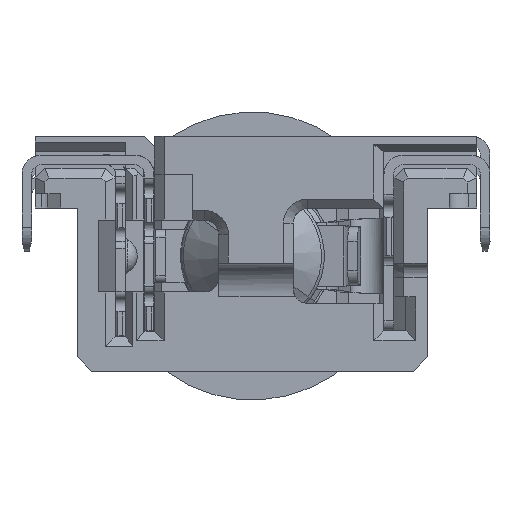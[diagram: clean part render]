
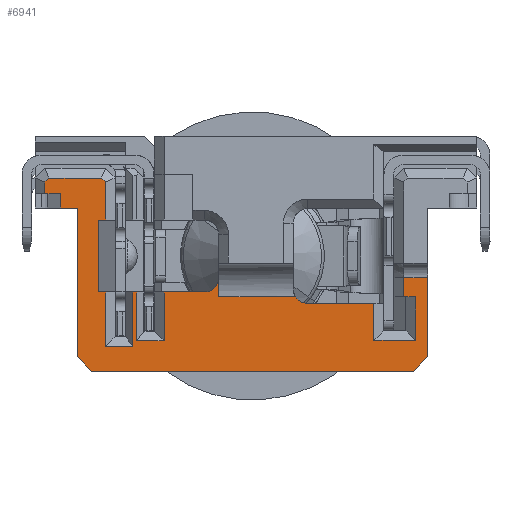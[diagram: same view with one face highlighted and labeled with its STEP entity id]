
A CAD part, front view. The second image highlights one B-rep face of the part: STEP entity #6941.
In plain terms, the highlighted planar face has unit normal (0, -1, 0).
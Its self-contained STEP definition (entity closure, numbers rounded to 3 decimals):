
#648=DIRECTION('',(0.,0.,1.));
#649=VECTOR('',#648,0.4);
#650=CARTESIAN_POINT('',(3.075,1.47,-3.14));
#651=LINE('',#650,#649);
#668=DIRECTION('',(0.707,0.,0.707));
#669=VECTOR('',#668,0.424);
#670=CARTESIAN_POINT('',(3.275,1.47,-4.69));
#671=LINE('',#670,#669);
#672=DIRECTION('',(0.707,0.,-0.707));
#673=VECTOR('',#672,0.424);
#674=CARTESIAN_POINT('',(-3.725,1.47,-4.39));
#675=LINE('',#674,#673);
#676=DIRECTION('',(0.,0.,-1.));
#677=VECTOR('',#676,3.1);
#678=CARTESIAN_POINT('',(-3.725,1.47,-1.29));
#679=LINE('',#678,#677);
#680=DIRECTION('',(1.,0.,0.));
#681=VECTOR('',#680,0.33);
#682=CARTESIAN_POINT('',(-4.4,1.47,-0.99));
#683=LINE('',#682,#681);
#684=DIRECTION('',(-0.707,0.,-0.707));
#685=VECTOR('',#684,0.117);
#686=CARTESIAN_POINT('',(-4.317,1.47,-0.665));
#687=LINE('',#686,#685);
#688=DIRECTION('',(-0.707,0.,0.707));
#689=VECTOR('',#688,0.117);
#690=CARTESIAN_POINT('',(-3.135,1.47,-0.748));
#691=LINE('',#690,#689);
#692=DIRECTION('',(1.,0.,0.));
#693=VECTOR('',#692,0.14);
#694=CARTESIAN_POINT('',(-3.275,1.47,-1.54));
#695=LINE('',#694,#693);
#696=CARTESIAN_POINT('',(-1.075,1.47,-2.74));
#697=DIRECTION('',(0.,1.,0.));
#698=DIRECTION('',(1.,0.,0.));
#699=AXIS2_PLACEMENT_3D('',#696,#697,#698);
#701=DIRECTION('',(0.,0.,1.));
#702=VECTOR('',#701,0.4);
#703=CARTESIAN_POINT('',(-0.775,1.47,-3.14));
#704=LINE('',#703,#702);
#705=CARTESIAN_POINT('',(1.075,1.47,-2.976));
#706=DIRECTION('',(0.,1.,0.));
#707=DIRECTION('',(0.,0.,-1.));
#708=AXIS2_PLACEMENT_3D('',#705,#706,#707);
#710=DIRECTION('',(1.,0.,0.));
#711=VECTOR('',#710,0.25);
#712=CARTESIAN_POINT('',(3.075,1.47,-3.14));
#713=LINE('',#712,#711);
#718=DIRECTION('',(1.,0.,0.));
#719=VECTOR('',#718,0.5);
#720=CARTESIAN_POINT('',(3.075,1.47,-2.74));
#721=LINE('',#720,#719);
#1333=DIRECTION('',(-1.,0.,0.));
#1334=VECTOR('',#1333,0.345);
#1335=CARTESIAN_POINT('',(-3.725,1.47,-1.29));
#1336=LINE('',#1335,#1334);
#1591=DIRECTION('',(1.,0.,0.));
#1592=VECTOR('',#1591,0.08);
#1593=CARTESIAN_POINT('',(-2.565,1.47,-3.04));
#1594=LINE('',#1593,#1592);
#1831=DIRECTION('',(0.,0.,-1.));
#1832=VECTOR('',#1831,0.792);
#1833=CARTESIAN_POINT('',(-3.135,1.47,-0.748));
#1834=LINE('',#1833,#1832);
#1859=DIRECTION('',(1.,0.,0.));
#1860=VECTOR('',#1859,0.14);
#1861=CARTESIAN_POINT('',(-3.275,1.47,-3.04));
#1862=LINE('',#1861,#1860);
#1875=DIRECTION('',(0.,0.,-1.));
#1876=VECTOR('',#1875,1.5);
#1877=CARTESIAN_POINT('',(-3.275,1.47,-1.54));
#1878=LINE('',#1877,#1876);
#1891=DIRECTION('',(0.,0.,-1.));
#1892=VECTOR('',#1891,1.134);
#1893=CARTESIAN_POINT('',(-3.135,1.47,-3.04));
#1894=LINE('',#1893,#1892);
#1895=DIRECTION('',(1.,0.,0.));
#1896=VECTOR('',#1895,0.57);
#1897=CARTESIAN_POINT('',(-3.135,1.47,-4.174));
#1898=LINE('',#1897,#1896);
#1911=DIRECTION('',(0.,0.,1.));
#1912=VECTOR('',#1911,1.134);
#1913=CARTESIAN_POINT('',(-2.565,1.47,-4.174));
#1914=LINE('',#1913,#1912);
#1919=DIRECTION('',(1.,0.,0.));
#1920=VECTOR('',#1919,1.099);
#1921=CARTESIAN_POINT('',(-4.317,1.47,-0.665));
#1922=LINE('',#1921,#1920);
#1943=DIRECTION('',(0.,0.,1.));
#1944=VECTOR('',#1943,0.242);
#1945=CARTESIAN_POINT('',(-4.4,1.47,-0.99));
#1946=LINE('',#1945,#1944);
#1968=DIRECTION('',(0.,0.,1.));
#1969=VECTOR('',#1968,0.3);
#1970=CARTESIAN_POINT('',(-4.07,1.47,-1.29));
#1971=LINE('',#1970,#1969);
#2024=DIRECTION('',(0.,0.,-1.));
#2025=VECTOR('',#2024,1.017);
#2026=CARTESIAN_POINT('',(-2.485,1.47,-3.04));
#2027=LINE('',#2026,#2025);
#2040=DIRECTION('',(1.,0.,0.));
#2041=VECTOR('',#2040,0.57);
#2042=CARTESIAN_POINT('',(-2.485,1.47,-4.057));
#2043=LINE('',#2042,#2041);
#2068=DIRECTION('',(1.,0.,0.));
#2069=VECTOR('',#2068,0.84);
#2070=CARTESIAN_POINT('',(-1.915,1.47,-3.04));
#2071=LINE('',#2070,#2069);
#2095=DIRECTION('',(0.,0.,1.));
#2096=VECTOR('',#2095,1.017);
#2097=CARTESIAN_POINT('',(-1.915,1.47,-4.057));
#2098=LINE('',#2097,#2096);
#2352=DIRECTION('',(1.,0.,0.));
#2353=VECTOR('',#2352,1.38);
#2354=CARTESIAN_POINT('',(1.075,1.47,-3.276));
#2355=LINE('',#2354,#2353);
#2432=DIRECTION('',(0.,0.,-1.));
#2433=VECTOR('',#2432,0.774);
#2434=CARTESIAN_POINT('',(2.455,1.47,-3.276));
#2435=LINE('',#2434,#2433);
#2444=DIRECTION('',(1.,0.,0.));
#2445=VECTOR('',#2444,0.87);
#2446=CARTESIAN_POINT('',(2.455,1.47,-4.05));
#2447=LINE('',#2446,#2445);
#2452=DIRECTION('',(0.,0.,1.));
#2453=VECTOR('',#2452,0.91);
#2454=CARTESIAN_POINT('',(3.325,1.47,-4.05));
#2455=LINE('',#2454,#2453);
#2484=DIRECTION('',(-1.,0.,0.));
#2485=VECTOR('',#2484,6.7);
#2486=CARTESIAN_POINT('',(3.275,1.47,-4.69));
#2487=LINE('',#2486,#2485);
#2528=DIRECTION('',(0.,0.,-1.));
#2529=VECTOR('',#2528,1.65);
#2530=CARTESIAN_POINT('',(3.575,1.47,-2.74));
#2531=LINE('',#2530,#2529);
#4577=CARTESIAN_POINT('',(0.824,1.47,-3.14));
#4583=DIRECTION('',(1.,0.,0.));
#4584=VECTOR('',#4583,1.599);
#4585=CARTESIAN_POINT('',(-0.775,1.47,-3.14));
#4586=LINE('',#4585,#4584);
#5450=CARTESIAN_POINT('',(-3.218,1.47,-0.665));
#5452=VERTEX_POINT('',#5450);
#5482=CARTESIAN_POINT('',(-2.485,1.47,-4.057));
#5484=VERTEX_POINT('',#5482);
#5546=CARTESIAN_POINT('',(-4.4,1.47,-0.748));
#5548=VERTEX_POINT('',#5546);
#5572=CARTESIAN_POINT('',(-0.775,1.47,-2.74));
#5573=CARTESIAN_POINT('',(-1.075,1.47,-3.04));
#5574=VERTEX_POINT('',#5572);
#5575=VERTEX_POINT('',#5573);
#5594=CARTESIAN_POINT('',(3.275,1.47,-4.69));
#5595=CARTESIAN_POINT('',(3.575,1.47,-4.39));
#5596=VERTEX_POINT('',#5594);
#5597=VERTEX_POINT('',#5595);
#5619=CARTESIAN_POINT('',(-3.135,1.47,-0.748));
#5621=VERTEX_POINT('',#5619);
#5686=CARTESIAN_POINT('',(2.455,1.47,-3.276));
#5688=VERTEX_POINT('',#5686);
#5772=CARTESIAN_POINT('',(-4.07,1.47,-0.99));
#5773=VERTEX_POINT('',#5772);
#5780=CARTESIAN_POINT('',(-3.725,1.47,-4.39));
#5781=VERTEX_POINT('',#5780);
#5898=CARTESIAN_POINT('',(-3.725,1.47,-1.29));
#5899=CARTESIAN_POINT('',(-4.07,1.47,-1.29));
#5900=VERTEX_POINT('',#5898);
#5901=VERTEX_POINT('',#5899);
#5902=CARTESIAN_POINT('',(-4.317,1.47,-0.665));
#5903=VERTEX_POINT('',#5902);
#5941=CARTESIAN_POINT('',(-3.425,1.47,-4.69));
#5942=VERTEX_POINT('',#5941);
#5971=CARTESIAN_POINT('',(-3.135,1.47,-4.174));
#5973=VERTEX_POINT('',#5971);
#6037=CARTESIAN_POINT('',(2.455,1.47,-4.05));
#6038=VERTEX_POINT('',#6037);
#6057=CARTESIAN_POINT('',(-1.915,1.47,-3.04));
#6058=VERTEX_POINT('',#6057);
#6069=CARTESIAN_POINT('',(-2.565,1.47,-4.174));
#6070=VERTEX_POINT('',#6069);
#6151=CARTESIAN_POINT('',(3.075,1.47,-3.14));
#6152=CARTESIAN_POINT('',(3.325,1.47,-3.14));
#6153=VERTEX_POINT('',#6151);
#6154=VERTEX_POINT('',#6152);
#6162=CARTESIAN_POINT('',(-3.135,1.47,-1.54));
#6164=VERTEX_POINT('',#6162);
#6192=CARTESIAN_POINT('',(3.075,1.47,-2.74));
#6193=VERTEX_POINT('',#6192);
#6197=CARTESIAN_POINT('',(3.325,1.47,-4.05));
#6198=VERTEX_POINT('',#6197);
#6266=CARTESIAN_POINT('',(-2.565,1.47,-3.04));
#6267=VERTEX_POINT('',#6266);
#6278=CARTESIAN_POINT('',(-2.485,1.47,-3.04));
#6279=VERTEX_POINT('',#6278);
#6286=CARTESIAN_POINT('',(-1.915,1.47,-4.057));
#6287=VERTEX_POINT('',#6286);
#6314=CARTESIAN_POINT('',(-3.275,1.47,-3.04));
#6315=CARTESIAN_POINT('',(-3.135,1.47,-3.04));
#6316=VERTEX_POINT('',#6314);
#6317=VERTEX_POINT('',#6315);
#6407=CARTESIAN_POINT('',(-4.4,1.47,-0.99));
#6408=VERTEX_POINT('',#6407);
#6415=CARTESIAN_POINT('',(-3.275,1.47,-1.54));
#6416=VERTEX_POINT('',#6415);
#6470=CARTESIAN_POINT('',(3.575,1.47,-2.74));
#6471=VERTEX_POINT('',#6470);
#6495=CARTESIAN_POINT('',(1.075,1.47,-3.276));
#6496=VERTEX_POINT('',#6495);
#6502=CARTESIAN_POINT('',(-0.775,1.47,-3.14));
#6503=VERTEX_POINT('',#6502);
#6538=VERTEX_POINT('',#4577);
#6867=CARTESIAN_POINT('',(0.,1.47,-2.24));
#6868=DIRECTION('',(0.,-1.,0.));
#6869=DIRECTION('',(0.,0.,1.));
#6870=AXIS2_PLACEMENT_3D('',#6867,#6868,#6869);
#6871=PLANE('',#6870);
#6873=ORIENTED_EDGE('',*,*,#6872,.T.);
#6875=ORIENTED_EDGE('',*,*,#6874,.T.);
#6877=ORIENTED_EDGE('',*,*,#6876,.F.);
#6879=ORIENTED_EDGE('',*,*,#6878,.T.);
#6881=ORIENTED_EDGE('',*,*,#6880,.F.);
#6883=ORIENTED_EDGE('',*,*,#6882,.F.);
#6885=ORIENTED_EDGE('',*,*,#6884,.T.);
#6887=ORIENTED_EDGE('',*,*,#6886,.T.);
#6889=ORIENTED_EDGE('',*,*,#6888,.F.);
#6891=ORIENTED_EDGE('',*,*,#6890,.T.);
#6893=ORIENTED_EDGE('',*,*,#6892,.F.);
#6895=ORIENTED_EDGE('',*,*,#6894,.T.);
#6897=ORIENTED_EDGE('',*,*,#6896,.F.);
#6899=ORIENTED_EDGE('',*,*,#6898,.T.);
#6901=ORIENTED_EDGE('',*,*,#6900,.F.);
#6903=ORIENTED_EDGE('',*,*,#6902,.T.);
#6905=ORIENTED_EDGE('',*,*,#6904,.T.);
#6907=ORIENTED_EDGE('',*,*,#6906,.T.);
#6909=ORIENTED_EDGE('',*,*,#6908,.T.);
#6911=ORIENTED_EDGE('',*,*,#6910,.T.);
#6913=ORIENTED_EDGE('',*,*,#6912,.T.);
#6915=ORIENTED_EDGE('',*,*,#6914,.T.);
#6917=ORIENTED_EDGE('',*,*,#6916,.T.);
#6919=ORIENTED_EDGE('',*,*,#6918,.T.);
#6921=ORIENTED_EDGE('',*,*,#6920,.T.);
#6923=ORIENTED_EDGE('',*,*,#6922,.F.);
#6924=ORIENTED_EDGE('',*,*,#6646,.F.);
#6926=ORIENTED_EDGE('',*,*,#6925,.T.);
#6928=ORIENTED_EDGE('',*,*,#6927,.F.);
#6930=ORIENTED_EDGE('',*,*,#6929,.T.);
#6932=ORIENTED_EDGE('',*,*,#6931,.T.);
#6934=ORIENTED_EDGE('',*,*,#6933,.T.);
#6936=ORIENTED_EDGE('',*,*,#6935,.T.);
#6937=ORIENTED_EDGE('',*,*,#6854,.F.);
#6938=ORIENTED_EDGE('',*,*,#6844,.T.);
#6939=EDGE_LOOP('',(#6873,#6875,#6877,#6879,#6881,#6883,#6885,#6887,#6889,#6891,
#6893,#6895,#6897,#6899,#6901,#6903,#6905,#6907,#6909,#6911,#6913,#6915,#6917,
#6919,#6921,#6923,#6924,#6926,#6928,#6930,#6932,#6934,#6936,#6937,#6938));
#6940=FACE_OUTER_BOUND('',#6939,.F.);
#700=CIRCLE('',#699,0.3);
#709=CIRCLE('',#708,0.3);
#6646=EDGE_CURVE('',#6503,#5574,#704,.T.);
#6844=EDGE_CURVE('',#6153,#6193,#651,.T.);
#6854=EDGE_CURVE('',#6153,#6154,#713,.T.);
#6872=EDGE_CURVE('',#6193,#6471,#721,.T.);
#6874=EDGE_CURVE('',#6471,#5597,#2531,.T.);
#6876=EDGE_CURVE('',#5596,#5597,#671,.T.);
#6878=EDGE_CURVE('',#5596,#5942,#2487,.T.);
#6880=EDGE_CURVE('',#5781,#5942,#675,.T.);
#6882=EDGE_CURVE('',#5900,#5781,#679,.T.);
#6884=EDGE_CURVE('',#5900,#5901,#1336,.T.);
#6886=EDGE_CURVE('',#5901,#5773,#1971,.T.);
#6888=EDGE_CURVE('',#6408,#5773,#683,.T.);
#6890=EDGE_CURVE('',#6408,#5548,#1946,.T.);
#6892=EDGE_CURVE('',#5903,#5548,#687,.T.);
#6894=EDGE_CURVE('',#5903,#5452,#1922,.T.);
#6896=EDGE_CURVE('',#5621,#5452,#691,.T.);
#6898=EDGE_CURVE('',#5621,#6164,#1834,.T.);
#6900=EDGE_CURVE('',#6416,#6164,#695,.T.);
#6902=EDGE_CURVE('',#6416,#6316,#1878,.T.);
#6904=EDGE_CURVE('',#6316,#6317,#1862,.T.);
#6906=EDGE_CURVE('',#6317,#5973,#1894,.T.);
#6908=EDGE_CURVE('',#5973,#6070,#1898,.T.);
#6910=EDGE_CURVE('',#6070,#6267,#1914,.T.);
#6912=EDGE_CURVE('',#6267,#6279,#1594,.T.);
#6914=EDGE_CURVE('',#6279,#5484,#2027,.T.);
#6916=EDGE_CURVE('',#5484,#6287,#2043,.T.);
#6918=EDGE_CURVE('',#6287,#6058,#2098,.T.);
#6920=EDGE_CURVE('',#6058,#5575,#2071,.T.);
#6922=EDGE_CURVE('',#5574,#5575,#700,.T.);
#6925=EDGE_CURVE('',#6503,#6538,#4586,.T.);
#6927=EDGE_CURVE('',#6496,#6538,#709,.T.);
#6929=EDGE_CURVE('',#6496,#5688,#2355,.T.);
#6931=EDGE_CURVE('',#5688,#6038,#2435,.T.);
#6933=EDGE_CURVE('',#6038,#6198,#2447,.T.);
#6935=EDGE_CURVE('',#6198,#6154,#2455,.T.);
#6941=ADVANCED_FACE('',(#6940),#6871,.T.);
